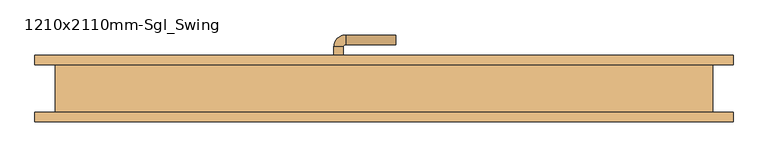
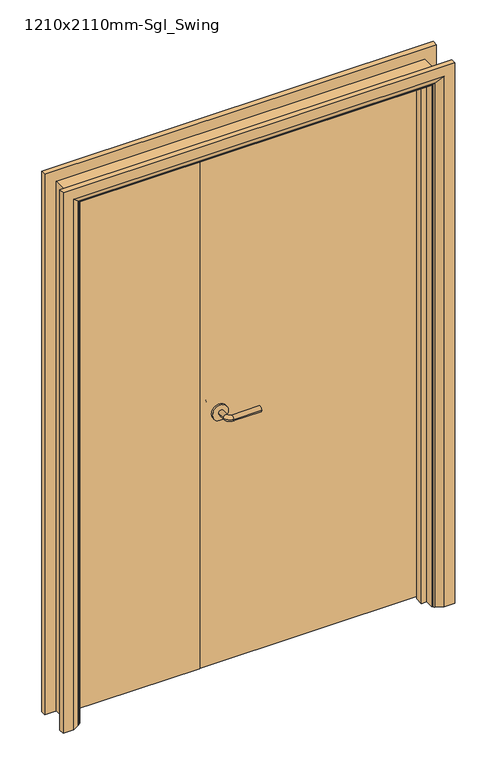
"""IFC4 building model written with IfcOpenShell, lengths in millimetres: door geometry, BIMHealth-Door_and_half_Birthing_Room-LOD2A-v1 : 1210x2110mm-Sgl_Swing."""

from ifc_helpers import new_model, si_unit, point, frame, frame_2d, origin, place, context, project, spatial, polyline, circle_curve, ellipse_curve, trimmed, segment, composite_curve, outline, extrude, faceted_brep, source, transform, mapped, element, save
from ifc_brep_helpers import plane_surface, cylinder_surface, revolved_surface, advanced_brep


def door_1210x2110mm_sgl_swing_1c7006f1(model_context):
    return source(origin(), model_context, "Body", "SolidModel", [
        advanced_brep(
        [(228.5, 10.0, 1000.0), (248.5, 10.0, 1000.0), (248.5, -20.0, 1000.0), (228.5, -20.0, 1000.0), (253.5, -25.0, 1000.0), (253.5, -45.0, 1000.0), (358.5, -45.0, 1000.0), (358.5, -25.0, 1000.0)],
        [
            (0, 1, circle_curve(frame((238.5, 10.0, 1000.0), z_axis=(0.0, 1.0, 0.0), x_axis=(1.0, 0.0, 0.0)), 10.0)),
            (1, 0, circle_curve(frame((238.5, 10.0, 1000.0), z_axis=(0.0, 1.0, 0.0), x_axis=(1.0, 0.0, 0.0)), 10.0)),
            (1, 2),
            (2, 3, circle_curve(frame((238.5, -20.0, 1000.0), z_axis=(0.0, 1.0, 0.0), x_axis=(1.0, 0.0, 0.0)), 10.0)),
            (3, 0),
            (3, 2, circle_curve(frame((238.5, -20.0, 1000.0), z_axis=(0.0, 1.0, 0.0), x_axis=(1.0, 0.0, 0.0)), 10.0)),
            (4, 5, circle_curve(frame((253.5, -35.0, 1000.0), z_axis=(-1.0, 0.0, 0.0), x_axis=(0.0, 1.0, 0.0)), 10.0)),
            (5, 3, circle_curve(frame((253.5, -20.0, 1000.0), z_axis=(0.0, 0.0, -1.0), x_axis=(-1.0, 0.0, 0.0)), 25.0)),
            (2, 4, circle_curve(frame((253.5, -20.0, 1000.0), z_axis=(0.0, 0.0, 1.0), x_axis=(-1.0, 0.0, 0.0)), 5.0)),
            (5, 4, circle_curve(frame((253.5, -35.0, 1000.0), z_axis=(-1.0, 0.0, 0.0), x_axis=(0.0, 1.0, 0.0)), 10.0)),
            (6, 7, circle_curve(frame((358.5, -35.0, 1000.0), z_axis=(1.0, 0.0, 0.0), x_axis=(0.0, 1.0, 0.0)), 10.0)),
            (7, 6, circle_curve(frame((358.5, -35.0, 1000.0), z_axis=(1.0, 0.0, 0.0), x_axis=(0.0, 1.0, 0.0)), 10.0)),
            (4, 7),
            (6, 5),
        ],
        [
            plane_surface(frame((238.5, 10.0, 1000.0), z_axis=(0.0, 1.0, 0.0), x_axis=(0.0, 0.0, 1.0))),
            cylinder_surface(frame((238.5, 10.0, 1000.0), z_axis=(0.0, 1.0, 0.0), x_axis=(1.0, 0.0, 0.0)), 10.0),
            revolved_surface(trimmed(ellipse_curve(frame((238.5, -20.0, 1000.0), z_axis=(0.0, -1.0, 0.0), x_axis=(1.0, 0.0, 0.0)), 10.0, 10.0), [point((228.5, -20.0, 1000.0))], [point((248.5, -20.0, 1000.0))], True, "CARTESIAN"), (253.5, -20.0, 1000.0), (0.0, 0.0, -1.0)),
            revolved_surface(trimmed(ellipse_curve(frame((238.5, -20.0, 1000.0), z_axis=(0.0, -1.0, 0.0), x_axis=(1.0, 0.0, 0.0)), 10.0, 10.0), [point((248.5, -20.0, 1000.0))], [point((228.5, -20.0, 1000.0))], True, "CARTESIAN"), (253.5, -20.0, 1000.0), (0.0, 0.0, -1.0)),
            plane_surface(frame((358.5, -35.0, 1000.0), z_axis=(1.0, 0.0, 0.0), x_axis=(0.0, 0.0, 1.0))),
            cylinder_surface(frame((253.5, -35.0, 1000.0), z_axis=(-1.0, 0.0, 0.0), x_axis=(0.0, 1.0, 0.0)), 10.0),
        ],
        [
            (0, [[1, 2]]),
            (1, [[3, 4, 5, -2]]),
            (1, [[-5, 6, -3, -1]]),
            (2, [[7, 8, -4, 9]]),
            (3, [[10, -9, -6, -8]]),
            (4, [[11, 12]]),
            (5, [[13, -11, 14, -7]]),
            (5, [[-14, -12, -13, -10]]),
        ],
    ),
        extrude(outline(composite_curve([segment(trimmed(circle_curve(frame_2d((1000.0, 236.0)), 30.0), [point((1000.0, 206.0))], [point((1000.0, 266.0))], False, "CARTESIAN"), True, "CONTINUOUS"), segment(trimmed(circle_curve(frame_2d((1000.0, 236.0)), 30.0), [point((1000.0, 266.0))], [point((1000.0, 206.0))], False, "CARTESIAN"), True, "CONTINUOUS")], self_intersect=False)), frame((0.0, 10.0, 0.0), z_axis=(0.0, 1.0, 0.0), x_axis=(0.0, 0.0, 1.0)), (0.0, 0.0, 1.0), 8.0),
        advanced_brep(
        [(228.5, 58.0, 1000.0), (248.5, 58.0, 1000.0), (228.5, 88.0, 1000.0), (248.5, 88.0, 1000.0), (253.5, 93.0, 1000.0), (253.5, 113.0, 1000.0), (358.5, 113.0, 1000.0), (358.5, 93.0, 1000.0)],
        [
            (0, 1, circle_curve(frame((238.5, 58.0, 1000.0), z_axis=(0.0, -1.0, 0.0), x_axis=(1.0, 0.0, 0.0)), 10.0)),
            (1, 0, circle_curve(frame((238.5, 58.0, 1000.0), z_axis=(0.0, -1.0, 0.0), x_axis=(1.0, 0.0, 0.0)), 10.0)),
            (0, 2),
            (2, 3, circle_curve(frame((238.5, 88.0, 1000.0), z_axis=(0.0, -1.0, 0.0), x_axis=(1.0, 0.0, 0.0)), 10.0)),
            (3, 1),
            (3, 2, circle_curve(frame((238.5, 88.0, 1000.0), z_axis=(0.0, -1.0, 0.0), x_axis=(1.0, 0.0, 0.0)), 10.0)),
            (4, 3, circle_curve(frame((253.5, 88.0, 1000.0), z_axis=(0.0, 0.0, 1.0), x_axis=(-1.0, 0.0, 0.0)), 5.0)),
            (2, 5, circle_curve(frame((253.5, 88.0, 1000.0), z_axis=(0.0, 0.0, -1.0), x_axis=(-1.0, 0.0, 0.0)), 25.0)),
            (5, 4, circle_curve(frame((253.5, 103.0, 1000.0), z_axis=(-1.0, 0.0, 0.0), x_axis=(0.0, -1.0, 0.0)), 10.0)),
            (4, 5, circle_curve(frame((253.5, 103.0, 1000.0), z_axis=(-1.0, 0.0, 0.0), x_axis=(0.0, -1.0, 0.0)), 10.0)),
            (6, 7, circle_curve(frame((358.5, 103.0, 1000.0), z_axis=(1.0, 0.0, 0.0), x_axis=(0.0, -1.0, 0.0)), 10.0)),
            (7, 6, circle_curve(frame((358.5, 103.0, 1000.0), z_axis=(1.0, 0.0, 0.0), x_axis=(0.0, -1.0, 0.0)), 10.0)),
            (5, 6),
            (7, 4),
        ],
        [
            plane_surface(frame((238.5, 58.0, 1000.0), z_axis=(0.0, -1.0, 0.0), x_axis=(0.0, 0.0, 1.0))),
            cylinder_surface(frame((238.5, 58.0, 1000.0), z_axis=(0.0, -1.0, 0.0), x_axis=(1.0, 0.0, 0.0)), 10.0),
            revolved_surface(trimmed(ellipse_curve(frame((238.5, 88.0, 1000.0), z_axis=(0.0, -1.0, 0.0), x_axis=(1.0, 0.0, 0.0)), 10.0, 10.0), [point((228.5, 88.0, 1000.0))], [point((248.5, 88.0, 1000.0))], True, "CARTESIAN"), (253.5, 88.0, 1000.0), (0.0, 0.0, -1.0)),
            revolved_surface(trimmed(ellipse_curve(frame((238.5, 88.0, 1000.0), z_axis=(0.0, -1.0, 0.0), x_axis=(1.0, 0.0, 0.0)), 10.0, 10.0), [point((248.5, 88.0, 1000.0))], [point((228.5, 88.0, 1000.0))], True, "CARTESIAN"), (253.5, 88.0, 1000.0), (0.0, 0.0, -1.0)),
            plane_surface(frame((358.5, 103.0, 1000.0), z_axis=(1.0, 0.0, 0.0), x_axis=(0.0, 0.0, 1.0))),
            cylinder_surface(frame((253.5, 103.0, 1000.0), z_axis=(-1.0, 0.0, 0.0), x_axis=(0.0, -1.0, 0.0)), 10.0),
        ],
        [
            (0, [[1, 2]]),
            (1, [[-1, 3, 4, 5]]),
            (1, [[-2, -5, 6, -3]]),
            (2, [[7, -4, 8, 9]]),
            (3, [[-8, -6, -7, 10]]),
            (4, [[11, 12]]),
            (5, [[-9, 13, -12, 14]]),
            (5, [[-10, -14, -11, -13]]),
        ],
    ),
        extrude(outline(composite_curve([segment(trimmed(circle_curve(frame_2d((1000.0, 236.0)), 30.0), [point((1000.0, 206.0))], [point((1000.0, 266.0))], False, "CARTESIAN"), True, "CONTINUOUS"), segment(trimmed(circle_curve(frame_2d((1000.0, 236.0)), 30.0), [point((1000.0, 266.0))], [point((1000.0, 206.0))], False, "CARTESIAN"), True, "CONTINUOUS")], self_intersect=False)), frame((0.0, 50.0, 0.0), z_axis=(0.0, 1.0, 0.0), x_axis=(0.0, 0.0, 1.0)), (0.0, 0.0, 1.0), 8.0),
        advanced_brep(
        [(-401.0, -70.0, 0.0), (-401.0, -50.0, 0.0), (-331.0, -50.0, 0.0), (-335.0, -56.0, 0.0), (-361.0, -70.0, 0.0), (-401.0, -70.0, 2145.0), (-401.0, -50.0, 2145.0), (1069.0, -50.0, 2145.0), (1069.0, -50.0, 0.0), (999.0, -50.0, 0.0), (999.0, -50.0, 2075.0), (-331.0, -50.0, 2075.0), (-335.0, -56.0, 2079.0), (-361.0, -70.0, 2105.0), (1029.0, -70.0, 2105.0), (1029.0, -70.0, 0.0), (1069.0, -70.0, 0.0), (1069.0, -70.0, 2145.0), (1003.0, -56.0, 0.0), (1003.0, -56.0, 2079.0)],
        [
            (0, 1),
            (1, 2),
            (2, 3, circle_curve(frame((-339.0, -49.0, 0.0), z_axis=(0.0, 0.0, -1.0), x_axis=(-1.0, 0.0, 0.0)), 8.0622577)),
            (3, 4),
            (4, 0),
            (0, 5),
            (5, 6),
            (6, 1),
            (6, 7),
            (7, 8),
            (8, 9),
            (9, 10),
            (10, 11),
            (11, 2),
            (11, 12, ellipse_curve(frame((-339.0, -49.0, 2083.0), z_axis=(-0.7071067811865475, 0.0, -0.7071067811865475), x_axis=(0.7071067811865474, 0.0, -0.7071067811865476)), 11.4017543, 8.0622577)),
            (12, 3),
            (12, 13),
            (13, 4),
            (13, 14),
            (14, 15),
            (15, 16),
            (16, 17),
            (17, 5),
            (7, 17),
            (16, 8),
            (15, 18),
            (18, 9, circle_curve(frame((1007.0, -49.0, 0.0), z_axis=(0.0, 0.0, -1.0), x_axis=(1.0, 0.0, 0.0)), 8.0622577)),
            (19, 10, ellipse_curve(frame((1007.0, -49.0, 2083.0), z_axis=(0.7071067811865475, 0.0, -0.7071067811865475), x_axis=(0.7071067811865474, 0.0, 0.7071067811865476)), 11.4017543, 8.0622577)),
            (18, 19),
            (14, 19),
            (19, 12),
        ],
        [
            plane_surface(frame((-331.0, -50.0, 0.0), z_axis=(0.0, 0.0, -1.0), x_axis=(0.0, -1.0, 0.0))),
            plane_surface(frame((-401.0, -70.0, 0.0), z_axis=(-1.0, 0.0, 0.0), x_axis=(0.0, 0.0, 1.0))),
            plane_surface(frame((-401.0, -50.0, 0.0), z_axis=(0.0, 1.0, 0.0), x_axis=(0.0, 0.0, 1.0))),
            cylinder_surface(frame((-339.0, -49.0, 0.0), z_axis=(0.0, 0.0, -1.0), x_axis=(-1.0, 0.0, 0.0)), 8.0622577),
            plane_surface(frame((-335.0, -56.0, 0.0), z_axis=(0.4740998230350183, -0.8804710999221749, 0.0), x_axis=(0.0, 0.0, 1.0))),
            plane_surface(frame((-361.0, -70.0, 0.0), z_axis=(0.0, -1.0, 0.0), x_axis=(0.0, 0.0, 1.0))),
            plane_surface(frame((1069.0, -70.0, 2145.0), z_axis=(1.0, 0.0, 0.0), x_axis=(0.0, 0.0, -1.0))),
            plane_surface(frame((999.0, -50.0, 0.0), z_axis=(0.0, 0.0, -1.0), x_axis=(0.0, -1.0, 0.0))),
            cylinder_surface(frame((1007.0, -49.0, 2075.0), z_axis=(0.0, 0.0, 1.0), x_axis=(1.0, 0.0, 0.0)), 8.0622577),
            plane_surface(frame((1003.0, -56.0, 2079.0), z_axis=(-0.4740998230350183, -0.8804710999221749, 0.0), x_axis=(0.0, 0.0, -1.0))),
            plane_surface(frame((-401.0, -70.0, 2145.0), z_axis=(0.0, 0.0, 1.0), x_axis=(1.0, 0.0, 0.0))),
            cylinder_surface(frame((-331.0, -49.0, 2083.0), z_axis=(-1.0, 0.0, 0.0), x_axis=(0.0, 0.0, 1.0)), 8.0622577),
            plane_surface(frame((-335.0, -56.0, 2079.0), z_axis=(0.0, -0.8804710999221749, -0.4740998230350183), x_axis=(1.0, 0.0, 0.0))),
        ],
        [
            (0, [[1, 2, 3, 4, 5]]),
            (1, [[-1, 6, 7, 8]]),
            (2, [[-2, -8, 9, 10, 11, 12, 13, 14]]),
            (3, [[-3, -14, 15, 16]]),
            (4, [[-4, -16, 17, 18]]),
            (5, [[-5, -18, 19, 20, 21, 22, 23, -6]]),
            (6, [[24, -22, 25, -10]]),
            (7, [[-21, 26, 27, -11, -25]]),
            (8, [[28, -12, -27, 29]]),
            (9, [[30, -29, -26, -20]]),
            (10, [[-7, -23, -24, -9]]),
            (11, [[-15, -13, -28, 31]]),
            (12, [[-17, -31, -30, -19]]),
        ],
    ),
        advanced_brep(
        [(1069.0, 70.0, 0.0), (1069.0, 50.0, 0.0), (999.0, 50.0, 0.0), (1003.0, 56.0, 0.0), (1029.0, 70.0, 0.0), (1069.0, 70.0, 2145.0), (1069.0, 50.0, 2145.0), (-401.0, 50.0, 2145.0), (-401.0, 50.0, 0.0), (-331.0, 50.0, 0.0), (-331.0, 50.0, 2075.0), (999.0, 50.0, 2075.0), (1003.0, 56.0, 2079.0), (1029.0, 70.0, 2105.0), (-361.0, 70.0, 2105.0), (-361.0, 70.0, 0.0), (-401.0, 70.0, 0.0), (-401.0, 70.0, 2145.0), (-335.0, 56.0, 0.0), (-335.0, 56.0, 2079.0)],
        [
            (0, 1),
            (1, 2),
            (2, 3, circle_curve(frame((1007.0, 49.0, 0.0), z_axis=(0.0, 0.0, -1.0), x_axis=(1.0, 0.0, 0.0)), 8.0622577)),
            (3, 4),
            (4, 0),
            (0, 5),
            (5, 6),
            (6, 1),
            (6, 7),
            (7, 8),
            (8, 9),
            (9, 10),
            (10, 11),
            (11, 2),
            (11, 12, ellipse_curve(frame((1007.0, 49.0, 2083.0), z_axis=(0.7071067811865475, 0.0, -0.7071067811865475), x_axis=(-0.7071067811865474, 0.0, -0.7071067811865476)), 11.4017543, 8.0622577)),
            (12, 3),
            (12, 13),
            (13, 4),
            (13, 14),
            (14, 15),
            (15, 16),
            (16, 17),
            (17, 5),
            (7, 17),
            (16, 8),
            (15, 18),
            (18, 9, circle_curve(frame((-339.0, 49.0, 0.0), z_axis=(0.0, 0.0, -1.0), x_axis=(-1.0, 0.0, 0.0)), 8.0622577)),
            (19, 10, ellipse_curve(frame((-339.0, 49.0, 2083.0), z_axis=(-0.7071067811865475, 0.0, -0.7071067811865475), x_axis=(-0.7071067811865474, 0.0, 0.7071067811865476)), 11.4017543, 8.0622577)),
            (18, 19),
            (14, 19),
            (19, 12),
        ],
        [
            plane_surface(frame((999.0, 50.0, 0.0), z_axis=(0.0, 0.0, -1.0), x_axis=(0.0, -1.0, 0.0))),
            plane_surface(frame((1069.0, 70.0, 0.0), z_axis=(1.0, 0.0, 0.0), x_axis=(0.0, 0.0, 1.0))),
            plane_surface(frame((1069.0, 50.0, 0.0), z_axis=(0.0, -1.0, 0.0), x_axis=(0.0, 0.0, 1.0))),
            cylinder_surface(frame((1007.0, 49.0, 0.0), z_axis=(0.0, 0.0, -1.0), x_axis=(1.0, 0.0, 0.0)), 8.0622577),
            plane_surface(frame((1003.0, 56.0, 0.0), z_axis=(-0.4740998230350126, 0.8804710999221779, 0.0), x_axis=(0.0, 0.0, 1.0))),
            plane_surface(frame((1029.0, 70.0, 0.0), z_axis=(0.0, 1.0, 0.0), x_axis=(0.0, 0.0, 1.0))),
            plane_surface(frame((-401.0, 70.0, 2145.0), z_axis=(-1.0, 0.0, 0.0), x_axis=(0.0, 0.0, -1.0))),
            plane_surface(frame((-331.0, 50.0, 0.0), z_axis=(0.0, 0.0, -1.0), x_axis=(0.0, -1.0, 0.0))),
            cylinder_surface(frame((-339.0, 49.0, 2075.0), z_axis=(0.0, 0.0, 1.0), x_axis=(-1.0, 0.0, 0.0)), 8.0622577),
            plane_surface(frame((-335.0, 56.0, 2079.0), z_axis=(0.4740998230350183, 0.8804710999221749, 0.0), x_axis=(0.0, 0.0, -1.0))),
            plane_surface(frame((1069.0, 70.0, 2145.0), z_axis=(0.0, 0.0, 1.0), x_axis=(-1.0, 0.0, 0.0))),
            cylinder_surface(frame((999.0, 49.0, 2083.0), z_axis=(1.0, 0.0, 0.0), x_axis=(0.0, 0.0, 1.0)), 8.0622577),
            plane_surface(frame((1003.0, 56.0, 2079.0), z_axis=(0.0, 0.8804710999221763, -0.4740998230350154), x_axis=(-1.0, 0.0, 0.0))),
        ],
        [
            (0, [[1, 2, 3, 4, 5]]),
            (1, [[-1, 6, 7, 8]]),
            (2, [[-2, -8, 9, 10, 11, 12, 13, 14]]),
            (3, [[-3, -14, 15, 16]]),
            (4, [[-4, -16, 17, 18]]),
            (5, [[-5, -18, 19, 20, 21, 22, 23, -6]]),
            (6, [[24, -22, 25, -10]]),
            (7, [[-21, 26, 27, -11, -25]]),
            (8, [[28, -12, -27, 29]]),
            (9, [[30, -29, -26, -20]]),
            (10, [[-7, -23, -24, -9]]),
            (11, [[-15, -13, -28, 31]]),
            (12, [[-17, -31, -30, -19]]),
        ],
    ),
        faceted_brep([(-307.0, 15.0, 0.0), (-307.0, -17.0, 0.0), (-326.0, -17.0, 0.0), (-326.0, 15.0, 0.0), (-307.0, 15.0, 2051.0), (-307.0, -17.0, 2051.0), (-326.0, -17.0, 2070.0), (-326.0, 15.0, 2070.0), (975.0, 15.0, 0.0), (994.0, 15.0, 0.0), (994.0, -17.0, 0.0), (975.0, -17.0, 0.0), (975.0, 15.0, 2051.0), (994.0, 15.0, 2070.0), (994.0, -17.0, 2070.0), (975.0, -17.0, 2051.0)], [[[0, 1, 2, 3]], [[1, 0, 4, 5]], [[2, 1, 5, 6]], [[3, 2, 6, 7]], [[0, 3, 7, 4]], [[8, 9, 10, 11]], [[12, 13, 9, 8]], [[13, 14, 10, 9]], [[14, 15, 11, 10]], [[15, 12, 8, 11]], [[5, 4, 12, 15]], [[6, 5, 15, 14]], [[7, 6, 14, 13]], [[4, 7, 13, 12]]]),
        extrude(outline(polyline([(2102.0, -358.0), (0.0, -358.0), (0.0, -326.0), (2070.0, -326.0), (2070.0, 994.0), (0.0, 994.0), (0.0, 1026.0), (2102.0, 1026.0), (2102.0, -358.0)])), frame((0.0, -50.0, 0.0), z_axis=(0.0, 1.0, 0.0), x_axis=(0.0, 0.0, 1.0)), (0.0, 0.0, 1.0), 100.0),
        extrude(outline(polyline([(162.0, 18.0), (-323.0, 18.0), (-323.0, 50.0), (162.0, 50.0), (162.0, 18.0)])), frame((0.0, 0.0, 5.753223), z_axis=(0.0, 0.0, 1.0), x_axis=(1.0, 0.0, 0.0)), (0.0, 0.0, 1.0), 2061.246777),
        extrude(outline(polyline([(991.0, 18.0), (165.0, 18.0), (165.0, 50.0), (991.0, 50.0), (991.0, 18.0)])), frame((0.0, 0.0, 5.753223), z_axis=(0.0, 0.0, 1.0), x_axis=(1.0, 0.0, 0.0)), (0.0, 0.0, 1.0), 2061.246777),
    ])


if __name__ == "__main__":
    model = new_model("IFC4")
    model_context = context("Model", 3, world=origin())
    ifc_project = project(units=[si_unit("LENGTHUNIT", "METRE", prefix="MILLI")], contexts=[model_context])
    site = spatial("IfcSite", under=ifc_project)
    building = spatial("IfcBuilding", under=site)
    placement = place(None, origin())
    door_1210x2110mm_sgl_swing_shape = door_1210x2110mm_sgl_swing_1c7006f1(model_context)
    element("IfcDoor", 1, ObjectType="BIMHealth-Door_and_half_Birthing_Room-LOD2A-v1 : 1210x2110mm-Sgl_Swing", at=placement, inside=building, context=model_context, shape_type="MappedRepresentation", body=[
        mapped(door_1210x2110mm_sgl_swing_shape, transform((0.0, 0.0, 0.0), x_axis=(1.0, 0.0, 0.0), y_axis=(0.0, 1.0, 0.0), z_axis=(0.0, 0.0, 1.0))),
    ])
    save(model, "model.ifc")
